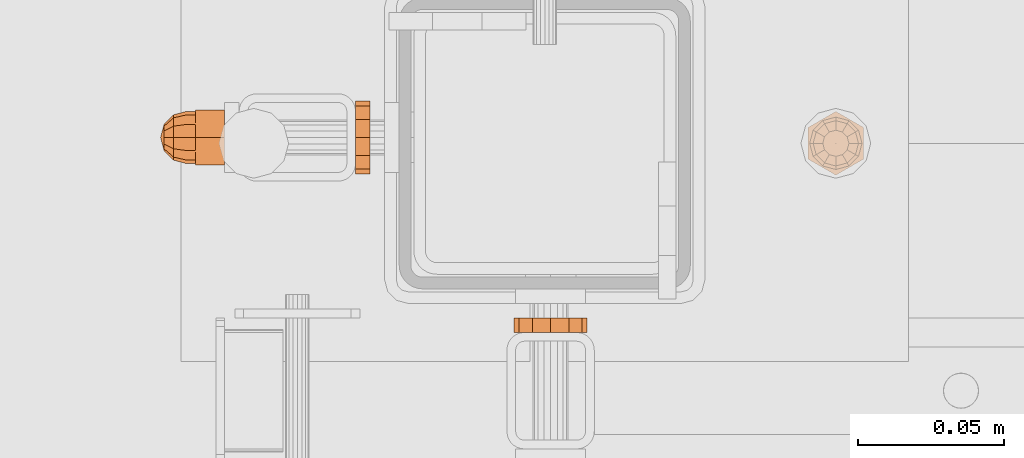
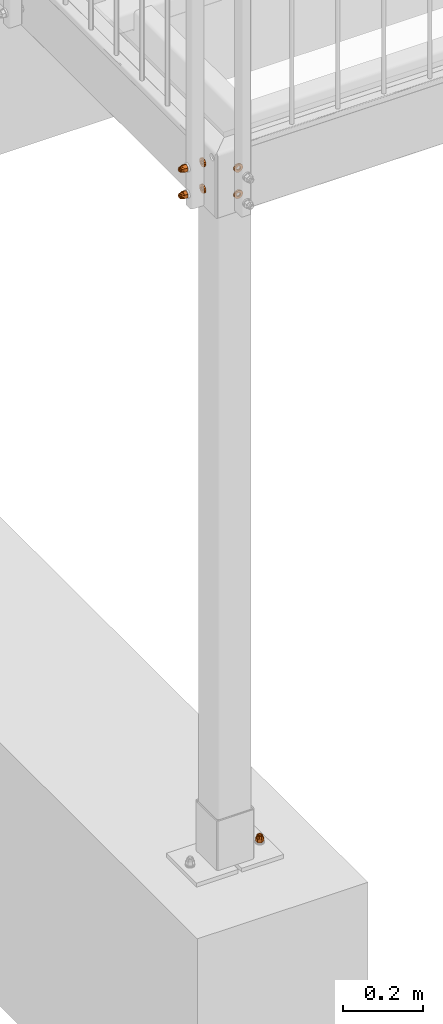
# One storey, part 98 of 116: 7 proxies.
"""IFC2X3 building model written with IfcOpenShell, lengths in millimetres."""

from ifc_helpers import new_model, entity, si_unit, converted_unit, origin_with_axes, place, context, project, spatial, faceted_brep, material, element, save


model = new_model("IFC2X3")

# Units and contexts
model_context = context("Model", 3, precision=1e-09, world=origin_with_axes())
ifc_project = project(units=[si_unit("LENGTHUNIT", "METRE", prefix="MILLI"), si_unit("AREAUNIT", "SQUARE_METRE"), si_unit("VOLUMEUNIT", "CUBIC_METRE"), converted_unit("PLANEANGLEUNIT", "DEGREE", entity("IfcPlaneAngleMeasure", 0.01745329), si_unit("PLANEANGLEUNIT", "RADIAN"), dimensions=[0, 0, 0, 0, 0, 0, 0])], contexts=[model_context])

# Site, building, storey
site_placement = place(None, origin_with_axes())
site = spatial("IfcSite", under=ifc_project, at=site_placement, Name="Site", CompositionType="ELEMENT")
building_placement = place(site_placement, origin_with_axes())
building = spatial("IfcBuilding", under=site, at=building_placement, Name="Struktur 1", CompositionType="ELEMENT")
storey_placement = place(building_placement, origin_with_axes())
storey = spatial("IfcBuildingStorey", under=building, at=storey_placement, Name="Default Storey", CompositionType="ELEMENT", Elevation=0.0)

# Proxies
ifc_material = material(Name="Kein")
proxy_1_placement = place(None, origin_with_axes())
element("IfcBuildingElementProxy", 1, at=proxy_1_placement, inside=storey, material=ifc_material, ObjectType="-", context=model_context, shape_type="Brep", body=[
    faceted_brep([(55328.223817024, 9067.359883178, -71.25), (55332.799134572, 9067.359883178, -75.825317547), (55339.049134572, 9067.359883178, -77.5), (55345.299134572, 9067.359883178, -75.825317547), (55349.874452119, 9067.359883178, -71.25), (55351.549134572, 9067.359883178, -65.0), (55349.874452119, 9067.359883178, -58.75), (55345.299134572, 9067.359883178, -54.174682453), (55339.049134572, 9067.359883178, -52.5), (55332.799134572, 9067.359883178, -54.174682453), (55328.223817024, 9067.359883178, -58.75), (55326.549134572, 9067.359883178, -65.0), (55339.049134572, 9067.359883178, -71.0), (55336.049134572, 9067.359883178, -70.196152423), (55333.852982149, 9067.359883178, -68.0), (55333.049134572, 9067.359883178, -65.0), (55333.852982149, 9067.359883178, -62.0), (55336.049134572, 9067.359883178, -59.803847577), (55339.049134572, 9067.359883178, -59.0), (55342.049134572, 9067.359883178, -59.803847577), (55344.245286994, 9067.359883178, -62.0), (55345.049134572, 9067.359883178, -65.0), (55344.245286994, 9067.359883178, -68.0), (55342.049134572, 9067.359883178, -70.196152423), (55328.223817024, 9072.359883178, -71.25), (55332.799134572, 9072.359883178, -75.825317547), (55326.549134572, 9072.359883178, -65.0), (55328.223817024, 9072.359883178, -58.75), (55332.799134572, 9072.359883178, -54.174682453), (55339.049134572, 9072.359883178, -52.5), (55345.299134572, 9072.359883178, -54.174682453), (55349.874452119, 9072.359883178, -58.75), (55351.549134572, 9072.359883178, -65.0), (55349.874452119, 9072.359883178, -71.25), (55345.299134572, 9072.359883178, -75.825317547), (55339.049134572, 9072.359883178, -77.5), (55333.852982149, 9072.359883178, -62.0), (55333.049134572, 9072.359883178, -65.0), (55333.852982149, 9072.359883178, -68.0), (55336.049134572, 9072.359883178, -70.196152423), (55339.049134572, 9072.359883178, -71.0), (55342.049134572, 9072.359883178, -70.196152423), (55344.245286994, 9072.359883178, -68.0), (55345.049134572, 9072.359883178, -65.0), (55344.245286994, 9072.359883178, -62.0), (55342.049134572, 9072.359883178, -59.803847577), (55339.049134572, 9072.359883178, -59.0), (55336.049134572, 9072.359883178, -59.803847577)], [[[0, 1, 2, 3, 4, 5, 6, 7, 8, 9, 10, 11], [12, 13, 14, 15, 16, 17, 18, 19, 20, 21, 22, 23]], [[0, 24, 25, 1]], [[24, 26, 27, 28, 29, 30, 31, 32, 33, 34, 35, 25], [36, 37, 38, 39, 40, 41, 42, 43, 44, 45, 46, 47]], [[38, 14, 13, 39]], [[24, 0, 11, 26]], [[14, 38, 37, 15]], [[39, 13, 12, 40]], [[1, 25, 35, 2]], [[26, 11, 10, 27]], [[15, 37, 36, 16]], [[40, 12, 23, 41]], [[2, 35, 34, 3]], [[27, 10, 9, 28]], [[16, 36, 47, 17]], [[22, 42, 41, 23]], [[3, 34, 33, 4]], [[42, 22, 21, 43]], [[28, 9, 8, 29]], [[17, 47, 46, 18]], [[20, 44, 43, 21]], [[4, 33, 32, 5]], [[45, 19, 18, 46]], [[44, 20, 19, 45]], [[29, 8, 7, 30]], [[5, 32, 31, 6]], [[30, 7, 6, 31]]]),
])
proxy_2_placement = place(None, origin_with_axes())
element("IfcBuildingElementProxy", 2, at=proxy_2_placement, inside=storey, material=ifc_material, ObjectType="-", context=model_context, shape_type="Brep", body=[
    faceted_brep([(55328.223817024, 9067.359883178, -151.25), (55332.799134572, 9067.359883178, -155.825317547), (55339.049134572, 9067.359883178, -157.5), (55345.299134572, 9067.359883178, -155.825317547), (55349.874452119, 9067.359883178, -151.25), (55351.549134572, 9067.359883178, -145.0), (55349.874452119, 9067.359883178, -138.75), (55345.299134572, 9067.359883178, -134.174682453), (55339.049134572, 9067.359883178, -132.5), (55332.799134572, 9067.359883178, -134.174682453), (55328.223817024, 9067.359883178, -138.75), (55326.549134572, 9067.359883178, -145.0), (55339.049134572, 9067.359883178, -151.0), (55336.049134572, 9067.359883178, -150.196152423), (55333.852982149, 9067.359883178, -148.0), (55333.049134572, 9067.359883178, -145.0), (55333.852982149, 9067.359883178, -142.0), (55336.049134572, 9067.359883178, -139.803847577), (55339.049134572, 9067.359883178, -139.0), (55342.049134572, 9067.359883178, -139.803847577), (55344.245286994, 9067.359883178, -142.0), (55345.049134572, 9067.359883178, -145.0), (55344.245286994, 9067.359883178, -148.0), (55342.049134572, 9067.359883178, -150.196152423), (55328.223817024, 9072.359883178, -151.25), (55332.799134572, 9072.359883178, -155.825317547), (55326.549134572, 9072.359883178, -145.0), (55328.223817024, 9072.359883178, -138.75), (55332.799134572, 9072.359883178, -134.174682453), (55339.049134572, 9072.359883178, -132.5), (55345.299134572, 9072.359883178, -134.174682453), (55349.874452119, 9072.359883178, -138.75), (55351.549134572, 9072.359883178, -145.0), (55349.874452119, 9072.359883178, -151.25), (55345.299134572, 9072.359883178, -155.825317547), (55339.049134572, 9072.359883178, -157.5), (55333.852982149, 9072.359883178, -142.0), (55333.049134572, 9072.359883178, -145.0), (55333.852982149, 9072.359883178, -148.0), (55336.049134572, 9072.359883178, -150.196152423), (55339.049134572, 9072.359883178, -151.0), (55342.049134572, 9072.359883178, -150.196152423), (55344.245286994, 9072.359883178, -148.0), (55345.049134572, 9072.359883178, -145.0), (55344.245286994, 9072.359883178, -142.0), (55342.049134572, 9072.359883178, -139.803847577), (55339.049134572, 9072.359883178, -139.0), (55336.049134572, 9072.359883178, -139.803847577)], [[[0, 1, 2, 3, 4, 5, 6, 7, 8, 9, 10, 11], [12, 13, 14, 15, 16, 17, 18, 19, 20, 21, 22, 23]], [[0, 24, 25, 1]], [[24, 26, 27, 28, 29, 30, 31, 32, 33, 34, 35, 25], [36, 37, 38, 39, 40, 41, 42, 43, 44, 45, 46, 47]], [[38, 14, 13, 39]], [[24, 0, 11, 26]], [[14, 38, 37, 15]], [[39, 13, 12, 40]], [[1, 25, 35, 2]], [[26, 11, 10, 27]], [[15, 37, 36, 16]], [[40, 12, 23, 41]], [[2, 35, 34, 3]], [[27, 10, 9, 28]], [[16, 36, 47, 17]], [[22, 42, 41, 23]], [[3, 34, 33, 4]], [[42, 22, 21, 43]], [[28, 9, 8, 29]], [[17, 47, 46, 18]], [[20, 44, 43, 21]], [[4, 33, 32, 5]], [[45, 19, 18, 46]], [[44, 20, 19, 45]], [[29, 8, 7, 30]], [[5, 32, 31, 6]], [[30, 7, 6, 31]]]),
])
proxy_3_placement = place(None, origin_with_axes())
element("IfcBuildingElementProxy", 3, at=proxy_3_placement, inside=storey, material=ifc_material, ObjectType="-", context=model_context, shape_type="Brep", body=[
    faceted_brep([(55272.049134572, 9145.184200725, -151.25), (55272.049134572, 9140.608883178, -155.825317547), (55272.049134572, 9134.358883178, -157.5), (55272.049134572, 9128.108883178, -155.825317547), (55272.049134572, 9123.533565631, -151.25), (55272.049134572, 9121.858883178, -145.0), (55272.049134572, 9123.533565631, -138.75), (55272.049134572, 9128.108883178, -134.174682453), (55272.049134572, 9134.358883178, -132.5), (55272.049134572, 9140.608883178, -134.174682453), (55272.049134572, 9145.184200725, -138.75), (55272.049134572, 9146.858883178, -145.0), (55272.049134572, 9134.358883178, -151.0), (55272.049134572, 9137.358883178, -150.196152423), (55272.049134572, 9139.555035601, -148.0), (55272.049134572, 9140.358883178, -145.0), (55272.049134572, 9139.555035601, -142.0), (55272.049134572, 9137.358883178, -139.803847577), (55272.049134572, 9134.358883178, -139.0), (55272.049134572, 9131.358883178, -139.803847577), (55272.049134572, 9129.162730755, -142.0), (55272.049134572, 9128.358883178, -145.0), (55272.049134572, 9129.162730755, -148.0), (55272.049134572, 9131.358883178, -150.196152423), (55277.049134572, 9145.184200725, -151.25), (55277.049134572, 9140.608883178, -155.825317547), (55277.049134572, 9146.858883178, -145.0), (55277.049134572, 9145.184200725, -138.75), (55277.049134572, 9140.608883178, -134.174682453), (55277.049134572, 9134.358883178, -132.5), (55277.049134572, 9128.108883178, -134.174682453), (55277.049134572, 9123.533565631, -138.75), (55277.049134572, 9121.858883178, -145.0), (55277.049134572, 9123.533565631, -151.25), (55277.049134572, 9128.108883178, -155.825317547), (55277.049134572, 9134.358883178, -157.5), (55277.049134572, 9139.555035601, -142.0), (55277.049134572, 9140.358883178, -145.0), (55277.049134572, 9139.555035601, -148.0), (55277.049134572, 9137.358883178, -150.196152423), (55277.049134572, 9134.358883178, -151.0), (55277.049134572, 9131.358883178, -150.196152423), (55277.049134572, 9129.162730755, -148.0), (55277.049134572, 9128.358883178, -145.0), (55277.049134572, 9129.162730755, -142.0), (55277.049134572, 9131.358883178, -139.803847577), (55277.049134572, 9134.358883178, -139.0), (55277.049134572, 9137.358883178, -139.803847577)], [[[0, 1, 2, 3, 4, 5, 6, 7, 8, 9, 10, 11], [12, 13, 14, 15, 16, 17, 18, 19, 20, 21, 22, 23]], [[0, 24, 25, 1]], [[24, 26, 27, 28, 29, 30, 31, 32, 33, 34, 35, 25], [36, 37, 38, 39, 40, 41, 42, 43, 44, 45, 46, 47]], [[38, 14, 13, 39]], [[24, 0, 11, 26]], [[14, 38, 37, 15]], [[39, 13, 12, 40]], [[1, 25, 35, 2]], [[26, 11, 10, 27]], [[15, 37, 36, 16]], [[40, 12, 23, 41]], [[2, 35, 34, 3]], [[27, 10, 9, 28]], [[16, 36, 47, 17]], [[22, 42, 41, 23]], [[3, 34, 33, 4]], [[42, 22, 21, 43]], [[28, 9, 8, 29]], [[17, 47, 46, 18]], [[20, 44, 43, 21]], [[4, 33, 32, 5]], [[45, 19, 18, 46]], [[44, 20, 19, 45]], [[29, 8, 7, 30]], [[5, 32, 31, 6]], [[30, 7, 6, 31]]]),
])
proxy_4_placement = place(None, origin_with_axes())
element("IfcBuildingElementProxy", 4, at=proxy_4_placement, inside=storey, material=ifc_material, ObjectType="-", context=model_context, shape_type="Brep", body=[
    faceted_brep([(55272.049134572, 9145.184200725, -71.25), (55272.049134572, 9140.608883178, -75.825317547), (55272.049134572, 9134.358883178, -77.5), (55272.049134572, 9128.108883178, -75.825317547), (55272.049134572, 9123.533565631, -71.25), (55272.049134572, 9121.858883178, -65.0), (55272.049134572, 9123.533565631, -58.75), (55272.049134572, 9128.108883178, -54.174682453), (55272.049134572, 9134.358883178, -52.5), (55272.049134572, 9140.608883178, -54.174682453), (55272.049134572, 9145.184200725, -58.75), (55272.049134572, 9146.858883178, -65.0), (55272.049134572, 9134.358883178, -71.0), (55272.049134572, 9137.358883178, -70.196152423), (55272.049134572, 9139.555035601, -68.0), (55272.049134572, 9140.358883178, -65.0), (55272.049134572, 9139.555035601, -62.0), (55272.049134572, 9137.358883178, -59.803847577), (55272.049134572, 9134.358883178, -59.0), (55272.049134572, 9131.358883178, -59.803847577), (55272.049134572, 9129.162730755, -62.0), (55272.049134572, 9128.358883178, -65.0), (55272.049134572, 9129.162730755, -68.0), (55272.049134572, 9131.358883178, -70.196152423), (55277.049134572, 9145.184200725, -71.25), (55277.049134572, 9140.608883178, -75.825317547), (55277.049134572, 9146.858883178, -65.0), (55277.049134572, 9145.184200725, -58.75), (55277.049134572, 9140.608883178, -54.174682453), (55277.049134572, 9134.358883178, -52.5), (55277.049134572, 9128.108883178, -54.174682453), (55277.049134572, 9123.533565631, -58.75), (55277.049134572, 9121.858883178, -65.0), (55277.049134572, 9123.533565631, -71.25), (55277.049134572, 9128.108883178, -75.825317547), (55277.049134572, 9134.358883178, -77.5), (55277.049134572, 9139.555035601, -62.0), (55277.049134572, 9140.358883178, -65.0), (55277.049134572, 9139.555035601, -68.0), (55277.049134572, 9137.358883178, -70.196152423), (55277.049134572, 9134.358883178, -71.0), (55277.049134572, 9131.358883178, -70.196152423), (55277.049134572, 9129.162730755, -68.0), (55277.049134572, 9128.358883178, -65.0), (55277.049134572, 9129.162730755, -62.0), (55277.049134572, 9131.358883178, -59.803847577), (55277.049134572, 9134.358883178, -59.0), (55277.049134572, 9137.358883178, -59.803847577)], [[[0, 1, 2, 3, 4, 5, 6, 7, 8, 9, 10, 11], [12, 13, 14, 15, 16, 17, 18, 19, 20, 21, 22, 23]], [[0, 24, 25, 1]], [[24, 26, 27, 28, 29, 30, 31, 32, 33, 34, 35, 25], [36, 37, 38, 39, 40, 41, 42, 43, 44, 45, 46, 47]], [[38, 14, 13, 39]], [[24, 0, 11, 26]], [[14, 38, 37, 15]], [[39, 13, 12, 40]], [[1, 25, 35, 2]], [[26, 11, 10, 27]], [[15, 37, 36, 16]], [[40, 12, 23, 41]], [[2, 35, 34, 3]], [[27, 10, 9, 28]], [[16, 36, 47, 17]], [[22, 42, 41, 23]], [[3, 34, 33, 4]], [[42, 22, 21, 43]], [[28, 9, 8, 29]], [[17, 47, 46, 18]], [[20, 44, 43, 21]], [[4, 33, 32, 5]], [[45, 19, 18, 46]], [[44, 20, 19, 45]], [[29, 8, 7, 30]], [[5, 32, 31, 6]], [[30, 7, 6, 31]]]),
])
proxy_5_placement = place(None, origin_with_axes())
element("IfcBuildingElementProxy", 5, at=proxy_5_placement, inside=storey, material=ifc_material, ObjectType="-", context=model_context, shape_type="Brep", body=[
    faceted_brep([(55227.049134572, 9140.358883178, -65.0), (55217.049134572, 9140.358883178, -65.0), (55217.049134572, 9139.555035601, -68.0), (55227.049134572, 9139.555035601, -68.0), (55217.049134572, 9137.358883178, -70.196152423), (55227.049134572, 9137.358883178, -70.196152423), (55227.049134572, 9139.555035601, -62.0), (55217.049134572, 9139.555035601, -62.0), (55227.049134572, 9143.838752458, -59.526794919), (55227.049134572, 9134.358883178, -54.053589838), (55227.049134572, 9124.879013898, -59.526794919), (55227.049134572, 9124.879013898, -70.473205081), (55227.049134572, 9134.358883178, -75.946410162), (55227.049134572, 9143.838752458, -70.473205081), (55227.049134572, 9137.358883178, -59.803847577), (55227.049134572, 9134.358883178, -71.0), (55227.049134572, 9131.358883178, -70.196152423), (55227.049134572, 9129.162730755, -68.0), (55227.049134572, 9128.358883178, -65.0), (55227.049134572, 9129.162730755, -62.0), (55227.049134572, 9131.358883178, -59.803847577), (55227.049134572, 9134.358883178, -59.0), (55217.049134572, 9134.358883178, -54.053589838), (55217.049134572, 9143.838752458, -59.526794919), (55217.049134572, 9143.838752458, -70.473205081), (55217.049134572, 9134.358883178, -75.946410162), (55217.049134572, 9124.879013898, -70.473205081), (55217.049134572, 9124.879013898, -59.526794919), (55217.049134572, 9137.358883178, -59.803847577), (55217.049134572, 9134.358883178, -59.0), (55217.049134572, 9131.358883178, -59.803847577), (55217.049134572, 9129.162730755, -62.0), (55217.049134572, 9128.358883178, -65.0), (55217.049134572, 9129.162730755, -68.0), (55217.049134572, 9131.358883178, -70.196152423), (55217.049134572, 9134.358883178, -71.0)], [[[0, 1, 2, 3]], [[3, 2, 4, 5]], [[1, 0, 6, 7]], [[8, 9, 10, 11, 12, 13], [14, 6, 0, 3, 5, 15, 16, 17, 18, 19, 20, 21]], [[22, 23, 24, 25, 26, 27], [1, 7, 28, 29, 30, 31, 32, 33, 34, 35, 4, 2]], [[7, 6, 14, 28]], [[24, 23, 8, 13]], [[5, 4, 35, 15]], [[13, 12, 25, 24]], [[28, 14, 21, 29]], [[23, 22, 9, 8]], [[15, 35, 34, 16]], [[12, 11, 26, 25]], [[29, 21, 20, 30]], [[22, 27, 10, 9]], [[16, 34, 33, 17]], [[27, 26, 11, 10]], [[30, 20, 19, 31]], [[17, 33, 32, 18]], [[31, 19, 18, 32]]]),
    faceted_brep([(55217.049134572, 9134.358883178, -56.0), (55214.049134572, 9134.358883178, -56.0), (55214.049134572, 9129.858883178, -57.205771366), (55217.049134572, 9129.858883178, -57.205771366), (55217.049134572, 9138.858883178, -57.205771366), (55214.049134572, 9138.858883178, -57.205771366), (55214.049134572, 9142.153111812, -69.5), (55214.049134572, 9138.858883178, -72.794228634), (55214.049134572, 9134.358883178, -74.0), (55214.049134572, 9129.858883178, -72.794228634), (55214.049134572, 9126.564654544, -69.5), (55214.049134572, 9125.358883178, -65.0), (55214.049134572, 9126.564654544, -60.5), (55214.049134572, 9142.153111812, -60.5), (55214.049134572, 9143.358883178, -65.0), (55217.049134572, 9126.564654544, -69.5), (55217.049134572, 9129.858883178, -72.794228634), (55217.049134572, 9134.358883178, -74.0), (55217.049134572, 9138.858883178, -72.794228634), (55217.049134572, 9142.153111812, -69.5), (55217.049134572, 9143.358883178, -65.0), (55217.049134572, 9142.153111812, -60.5), (55217.049134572, 9126.564654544, -60.5), (55217.049134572, 9125.358883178, -65.0)], [[[0, 1, 2, 3]], [[1, 0, 4, 5]], [[6, 7, 8, 9, 10, 11, 12, 2, 1, 5, 13, 14]], [[15, 16, 17, 18, 19, 20, 21, 4, 0, 3, 22, 23]], [[3, 2, 12, 22]], [[5, 4, 21, 13]], [[22, 12, 11, 23]], [[13, 21, 20, 14]], [[7, 18, 17, 8]], [[19, 6, 14, 20]], [[18, 7, 6, 19]], [[23, 11, 10, 15]], [[8, 17, 16, 9]], [[15, 10, 9, 16]]]),
    faceted_brep([(55214.049134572, 9142.153111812, -60.5), (55209.549134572, 9141.108883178, -61.102885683), (55209.549134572, 9138.255997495, -58.25), (55214.049134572, 9138.858883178, -57.205771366), (55214.049134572, 9126.564654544, -69.5), (55214.049134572, 9129.858883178, -72.794228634), (55214.049134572, 9134.358883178, -74.0), (55214.049134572, 9138.858883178, -72.794228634), (55214.049134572, 9142.153111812, -69.5), (55214.049134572, 9143.358883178, -65.0), (55214.049134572, 9134.358883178, -56.0), (55214.049134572, 9129.858883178, -57.205771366), (55214.049134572, 9126.564654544, -60.5), (55214.049134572, 9125.358883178, -65.0), (55209.549134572, 9134.358883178, -57.205771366), (55209.549134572, 9142.153111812, -65.0), (55206.254905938, 9138.858883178, -65.0), (55206.254905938, 9138.255997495, -62.75), (55209.549134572, 9130.461768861, -58.25), (55206.254905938, 9136.608883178, -61.102885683), (55209.549134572, 9141.108883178, -68.897114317), (55206.254905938, 9138.255997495, -67.25), (55206.254905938, 9134.358883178, -60.5), (55205.049134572, 9134.358883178, -65.0), (55209.549134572, 9138.255997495, -71.75), (55206.254905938, 9136.608883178, -68.897114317), (55209.549134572, 9134.358883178, -72.794228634), (55209.549134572, 9127.608883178, -61.102885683), (55206.254905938, 9132.108883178, -61.102885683), (55206.254905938, 9134.358883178, -69.5), (55209.549134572, 9130.461768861, -71.75), (55206.254905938, 9132.108883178, -68.897114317), (55209.549134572, 9126.564654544, -65.0), (55206.254905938, 9130.461768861, -62.75), (55209.549134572, 9127.608883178, -68.897114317), (55206.254905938, 9130.461768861, -67.25), (55206.254905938, 9129.858883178, -65.0)], [[[0, 1, 2, 3]], [[4, 5, 6, 7, 8, 9, 0, 3, 10, 11, 12, 13]], [[3, 2, 14, 10]], [[15, 16, 17, 1]], [[1, 0, 9, 15]], [[10, 14, 18, 11]], [[1, 17, 19, 2]], [[16, 15, 20, 21]], [[2, 19, 22, 14]], [[23, 17, 16]], [[24, 25, 21, 20]], [[23, 16, 21]], [[24, 7, 6, 26]], [[20, 8, 7, 24]], [[15, 9, 8, 20]], [[11, 18, 27, 12]], [[14, 22, 28, 18]], [[23, 19, 17]], [[26, 29, 25, 24]], [[23, 21, 25]], [[23, 22, 19]], [[26, 6, 5, 30]], [[29, 26, 30, 31]], [[23, 25, 29]], [[12, 27, 32, 13]], [[18, 28, 33, 27]], [[23, 28, 22]], [[23, 29, 31]], [[23, 33, 28]], [[30, 5, 4, 34]], [[31, 30, 34, 35]], [[23, 31, 35]], [[13, 32, 34, 4]], [[27, 33, 36, 32]], [[23, 36, 33]], [[23, 35, 36]], [[35, 34, 32, 36]]]),
])
proxy_6_placement = place(None, origin_with_axes())
element("IfcBuildingElementProxy", 6, at=proxy_6_placement, inside=storey, material=ifc_material, ObjectType="-", context=model_context, shape_type="Brep", body=[
    faceted_brep([(55227.049134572, 9140.358883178, -145.0), (55217.049134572, 9140.358883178, -145.0), (55217.049134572, 9139.555035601, -148.0), (55227.049134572, 9139.555035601, -148.0), (55217.049134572, 9137.358883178, -150.196152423), (55227.049134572, 9137.358883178, -150.196152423), (55227.049134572, 9139.555035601, -142.0), (55217.049134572, 9139.555035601, -142.0), (55227.049134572, 9143.838752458, -139.526794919), (55227.049134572, 9134.358883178, -134.053589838), (55227.049134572, 9124.879013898, -139.526794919), (55227.049134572, 9124.879013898, -150.473205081), (55227.049134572, 9134.358883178, -155.946410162), (55227.049134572, 9143.838752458, -150.473205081), (55227.049134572, 9137.358883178, -139.803847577), (55227.049134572, 9134.358883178, -151.0), (55227.049134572, 9131.358883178, -150.196152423), (55227.049134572, 9129.162730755, -148.0), (55227.049134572, 9128.358883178, -145.0), (55227.049134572, 9129.162730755, -142.0), (55227.049134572, 9131.358883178, -139.803847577), (55227.049134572, 9134.358883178, -139.0), (55217.049134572, 9134.358883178, -134.053589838), (55217.049134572, 9143.838752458, -139.526794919), (55217.049134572, 9143.838752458, -150.473205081), (55217.049134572, 9134.358883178, -155.946410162), (55217.049134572, 9124.879013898, -150.473205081), (55217.049134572, 9124.879013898, -139.526794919), (55217.049134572, 9137.358883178, -139.803847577), (55217.049134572, 9134.358883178, -139.0), (55217.049134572, 9131.358883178, -139.803847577), (55217.049134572, 9129.162730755, -142.0), (55217.049134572, 9128.358883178, -145.0), (55217.049134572, 9129.162730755, -148.0), (55217.049134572, 9131.358883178, -150.196152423), (55217.049134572, 9134.358883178, -151.0)], [[[0, 1, 2, 3]], [[3, 2, 4, 5]], [[1, 0, 6, 7]], [[8, 9, 10, 11, 12, 13], [14, 6, 0, 3, 5, 15, 16, 17, 18, 19, 20, 21]], [[22, 23, 24, 25, 26, 27], [1, 7, 28, 29, 30, 31, 32, 33, 34, 35, 4, 2]], [[7, 6, 14, 28]], [[24, 23, 8, 13]], [[5, 4, 35, 15]], [[13, 12, 25, 24]], [[28, 14, 21, 29]], [[23, 22, 9, 8]], [[15, 35, 34, 16]], [[12, 11, 26, 25]], [[29, 21, 20, 30]], [[22, 27, 10, 9]], [[16, 34, 33, 17]], [[27, 26, 11, 10]], [[30, 20, 19, 31]], [[17, 33, 32, 18]], [[31, 19, 18, 32]]]),
    faceted_brep([(55217.049134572, 9134.358883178, -136.0), (55214.049134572, 9134.358883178, -136.0), (55214.049134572, 9129.858883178, -137.205771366), (55217.049134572, 9129.858883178, -137.205771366), (55217.049134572, 9138.858883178, -137.205771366), (55214.049134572, 9138.858883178, -137.205771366), (55214.049134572, 9142.153111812, -149.5), (55214.049134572, 9138.858883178, -152.794228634), (55214.049134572, 9134.358883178, -154.0), (55214.049134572, 9129.858883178, -152.794228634), (55214.049134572, 9126.564654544, -149.5), (55214.049134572, 9125.358883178, -145.0), (55214.049134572, 9126.564654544, -140.5), (55214.049134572, 9142.153111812, -140.5), (55214.049134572, 9143.358883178, -145.0), (55217.049134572, 9126.564654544, -149.5), (55217.049134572, 9129.858883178, -152.794228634), (55217.049134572, 9134.358883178, -154.0), (55217.049134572, 9138.858883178, -152.794228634), (55217.049134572, 9142.153111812, -149.5), (55217.049134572, 9143.358883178, -145.0), (55217.049134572, 9142.153111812, -140.5), (55217.049134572, 9126.564654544, -140.5), (55217.049134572, 9125.358883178, -145.0)], [[[0, 1, 2, 3]], [[1, 0, 4, 5]], [[6, 7, 8, 9, 10, 11, 12, 2, 1, 5, 13, 14]], [[15, 16, 17, 18, 19, 20, 21, 4, 0, 3, 22, 23]], [[3, 2, 12, 22]], [[5, 4, 21, 13]], [[22, 12, 11, 23]], [[13, 21, 20, 14]], [[7, 18, 17, 8]], [[19, 6, 14, 20]], [[18, 7, 6, 19]], [[23, 11, 10, 15]], [[8, 17, 16, 9]], [[15, 10, 9, 16]]]),
    faceted_brep([(55214.049134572, 9142.153111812, -140.5), (55209.549134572, 9141.108883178, -141.102885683), (55209.549134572, 9138.255997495, -138.25), (55214.049134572, 9138.858883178, -137.205771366), (55214.049134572, 9126.564654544, -149.5), (55214.049134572, 9129.858883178, -152.794228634), (55214.049134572, 9134.358883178, -154.0), (55214.049134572, 9138.858883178, -152.794228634), (55214.049134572, 9142.153111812, -149.5), (55214.049134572, 9143.358883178, -145.0), (55214.049134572, 9134.358883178, -136.0), (55214.049134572, 9129.858883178, -137.205771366), (55214.049134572, 9126.564654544, -140.5), (55214.049134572, 9125.358883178, -145.0), (55209.549134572, 9134.358883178, -137.205771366), (55209.549134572, 9142.153111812, -145.0), (55206.254905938, 9138.858883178, -145.0), (55206.254905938, 9138.255997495, -142.75), (55209.549134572, 9130.461768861, -138.25), (55206.254905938, 9136.608883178, -141.102885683), (55209.549134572, 9141.108883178, -148.897114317), (55206.254905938, 9138.255997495, -147.25), (55206.254905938, 9134.358883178, -140.5), (55205.049134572, 9134.358883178, -145.0), (55209.549134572, 9138.255997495, -151.75), (55206.254905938, 9136.608883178, -148.897114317), (55209.549134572, 9134.358883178, -152.794228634), (55209.549134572, 9127.608883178, -141.102885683), (55206.254905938, 9132.108883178, -141.102885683), (55206.254905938, 9134.358883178, -149.5), (55209.549134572, 9130.461768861, -151.75), (55206.254905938, 9132.108883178, -148.897114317), (55209.549134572, 9126.564654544, -145.0), (55206.254905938, 9130.461768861, -142.75), (55209.549134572, 9127.608883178, -148.897114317), (55206.254905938, 9130.461768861, -147.25), (55206.254905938, 9129.858883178, -145.0)], [[[0, 1, 2, 3]], [[4, 5, 6, 7, 8, 9, 0, 3, 10, 11, 12, 13]], [[3, 2, 14, 10]], [[15, 16, 17, 1]], [[1, 0, 9, 15]], [[10, 14, 18, 11]], [[1, 17, 19, 2]], [[16, 15, 20, 21]], [[2, 19, 22, 14]], [[23, 17, 16]], [[24, 25, 21, 20]], [[23, 16, 21]], [[24, 7, 6, 26]], [[20, 8, 7, 24]], [[15, 9, 8, 20]], [[11, 18, 27, 12]], [[14, 22, 28, 18]], [[23, 19, 17]], [[26, 29, 25, 24]], [[23, 21, 25]], [[23, 22, 19]], [[26, 6, 5, 30]], [[29, 26, 30, 31]], [[23, 25, 29]], [[12, 27, 32, 13]], [[18, 28, 33, 27]], [[23, 28, 22]], [[23, 29, 31]], [[23, 33, 28]], [[30, 5, 4, 34]], [[31, 30, 34, 35]], [[23, 31, 35]], [[13, 32, 34, 4]], [[27, 33, 36, 32]], [[23, 36, 33]], [[23, 35, 36]], [[35, 34, 32, 36]]]),
])
proxy_7_placement = place(None, origin_with_axes())
element("IfcBuildingElementProxy", 7, at=proxy_7_placement, inside=storey, material=ifc_material, ObjectType="-", context=model_context, shape_type="Brep", body=[
    faceted_brep([(55431.049134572, 9132.358883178, -2170.0), (55431.049134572, 9132.358883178, -2180.0), (55431.852982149, 9135.358883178, -2180.0), (55431.852982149, 9135.358883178, -2170.0), (55434.049134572, 9137.555035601, -2180.0), (55434.049134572, 9137.555035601, -2170.0), (55431.852982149, 9129.358883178, -2170.0), (55431.852982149, 9129.358883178, -2180.0), (55427.569265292, 9126.885678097, -2180.0), (55427.569265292, 9137.832088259, -2180.0), (55437.049134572, 9143.30529334, -2180.0), (55446.529003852, 9137.832088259, -2180.0), (55446.529003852, 9126.885678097, -2180.0), (55437.049134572, 9121.412473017, -2180.0), (55434.049134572, 9127.162730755, -2180.0), (55437.049134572, 9126.358883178, -2180.0), (55440.049134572, 9127.162730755, -2180.0), (55442.245286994, 9129.358883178, -2180.0), (55443.049134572, 9132.358883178, -2180.0), (55442.245286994, 9135.358883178, -2180.0), (55440.049134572, 9137.555035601, -2180.0), (55437.049134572, 9138.358883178, -2180.0), (55427.569265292, 9126.885678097, -2170.0), (55437.049134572, 9121.412473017, -2170.0), (55446.529003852, 9126.885678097, -2170.0), (55446.529003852, 9137.832088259, -2170.0), (55437.049134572, 9143.30529334, -2170.0), (55427.569265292, 9137.832088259, -2170.0), (55434.049134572, 9127.162730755, -2170.0), (55437.049134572, 9138.358883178, -2170.0), (55437.049134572, 9126.358883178, -2170.0), (55440.049134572, 9137.555035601, -2170.0), (55440.049134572, 9127.162730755, -2170.0), (55442.245286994, 9135.358883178, -2170.0), (55442.245286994, 9129.358883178, -2170.0), (55443.049134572, 9132.358883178, -2170.0)], [[[0, 1, 2, 3]], [[3, 2, 4, 5]], [[1, 0, 6, 7]], [[8, 9, 10, 11, 12, 13], [7, 14, 15, 16, 17, 18, 19, 20, 21, 4, 2, 1]], [[22, 23, 24, 25, 26, 27]], [[7, 6, 28, 14]], [[22, 27, 9, 8]], [[5, 4, 21, 29]], [[10, 9, 27, 26]], [[14, 28, 30, 15]], [[23, 22, 8, 13]], [[29, 21, 20, 31]], [[11, 10, 26, 25]], [[15, 30, 32, 16]], [[24, 23, 13, 12]], [[31, 20, 19, 33]], [[25, 24, 12, 11]], [[16, 32, 34, 17]], [[33, 19, 18, 35]], [[17, 34, 35, 18]]]),
    faceted_brep([(55437.049134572, 9123.358883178, -2167.0), (55437.049134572, 9123.358883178, -2170.0), (55441.549134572, 9124.564654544, -2170.0), (55441.549134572, 9124.564654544, -2167.0), (55432.549134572, 9124.564654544, -2167.0), (55432.549134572, 9124.564654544, -2170.0), (55432.549134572, 9140.153111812, -2167.0), (55429.254905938, 9136.858883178, -2167.0), (55428.049134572, 9132.358883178, -2167.0), (55429.254905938, 9127.858883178, -2167.0), (55444.843363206, 9127.858883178, -2167.0), (55446.049134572, 9132.358883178, -2167.0), (55444.843363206, 9136.858883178, -2167.0), (55441.549134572, 9140.153111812, -2167.0), (55437.049134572, 9141.358883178, -2167.0), (55441.549134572, 9140.153111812, -2170.0), (55444.843363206, 9136.858883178, -2170.0), (55446.049134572, 9132.358883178, -2170.0), (55444.843363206, 9127.858883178, -2170.0), (55429.254905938, 9127.858883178, -2170.0), (55428.049134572, 9132.358883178, -2170.0), (55429.254905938, 9136.858883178, -2170.0), (55432.549134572, 9140.153111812, -2170.0), (55437.049134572, 9141.358883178, -2170.0)], [[[0, 1, 2, 3]], [[1, 0, 4, 5]], [[6, 7, 8, 9, 4, 0, 3, 10, 11, 12, 13, 14]], [[15, 16, 17, 18, 2, 1, 5, 19, 20, 21, 22, 23]], [[3, 2, 18, 10]], [[5, 4, 9, 19]], [[10, 18, 17, 11]], [[19, 9, 8, 20]], [[22, 6, 14, 23]], [[7, 21, 20, 8]], [[6, 22, 21, 7]], [[11, 17, 16, 12]], [[23, 14, 13, 15]], [[12, 16, 15, 13]]]),
    faceted_brep([(55430.299134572, 9128.461768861, -2162.5), (55429.254905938, 9127.858883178, -2167.0), (55432.549134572, 9124.564654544, -2167.0), (55433.152020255, 9125.608883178, -2162.5), (55441.549134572, 9140.153111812, -2167.0), (55444.843363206, 9136.858883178, -2167.0), (55446.049134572, 9132.358883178, -2167.0), (55444.843363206, 9127.858883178, -2167.0), (55441.549134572, 9124.564654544, -2167.0), (55437.049134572, 9123.358883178, -2167.0), (55428.049134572, 9132.358883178, -2167.0), (55429.254905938, 9136.858883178, -2167.0), (55432.549134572, 9140.153111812, -2167.0), (55437.049134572, 9141.358883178, -2167.0), (55437.049134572, 9124.564654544, -2162.5), (55432.549134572, 9132.358883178, -2159.205771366), (55429.254905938, 9132.358883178, -2162.5), (55433.152020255, 9130.108883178, -2159.205771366), (55440.946248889, 9125.608883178, -2162.5), (55434.799134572, 9128.461768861, -2159.205771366), (55433.152020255, 9134.608883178, -2159.205771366), (55430.299134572, 9136.255997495, -2162.5), (55437.049134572, 9127.858883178, -2159.205771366), (55437.049134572, 9132.358883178, -2158.0), (55434.799134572, 9136.255997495, -2159.205771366), (55433.152020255, 9139.108883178, -2162.5), (55437.049134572, 9140.153111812, -2162.5), (55443.799134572, 9128.461768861, -2162.5), (55439.299134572, 9128.461768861, -2159.205771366), (55437.049134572, 9136.858883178, -2159.205771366), (55440.946248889, 9139.108883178, -2162.5), (55439.299134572, 9136.255997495, -2159.205771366), (55444.843363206, 9132.358883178, -2162.5), (55440.946248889, 9130.108883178, -2159.205771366), (55443.799134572, 9136.255997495, -2162.5), (55440.946248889, 9134.608883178, -2159.205771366), (55441.549134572, 9132.358883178, -2159.205771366)], [[[0, 1, 2, 3]], [[4, 5, 6, 7, 8, 9, 2, 1, 10, 11, 12, 13]], [[3, 2, 9, 14]], [[15, 16, 0, 17]], [[1, 0, 16, 10]], [[14, 9, 8, 18]], [[17, 0, 3, 19]], [[16, 15, 20, 21]], [[19, 3, 14, 22]], [[17, 23, 15]], [[24, 25, 21, 20]], [[15, 23, 20]], [[12, 25, 26, 13]], [[11, 21, 25, 12]], [[10, 16, 21, 11]], [[18, 8, 7, 27]], [[22, 14, 18, 28]], [[19, 23, 17]], [[29, 26, 25, 24]], [[20, 23, 24]], [[22, 23, 19]], [[13, 26, 30, 4]], [[26, 29, 31, 30]], [[24, 23, 29]], [[27, 7, 6, 32]], [[28, 18, 27, 33]], [[28, 23, 22]], [[29, 23, 31]], [[33, 23, 28]], [[4, 30, 34, 5]], [[30, 31, 35, 34]], [[31, 23, 35]], [[32, 6, 5, 34]], [[33, 27, 32, 36]], [[36, 23, 33]], [[35, 23, 36]], [[34, 35, 36, 32]]]),
])

save(model, "model.ifc")
